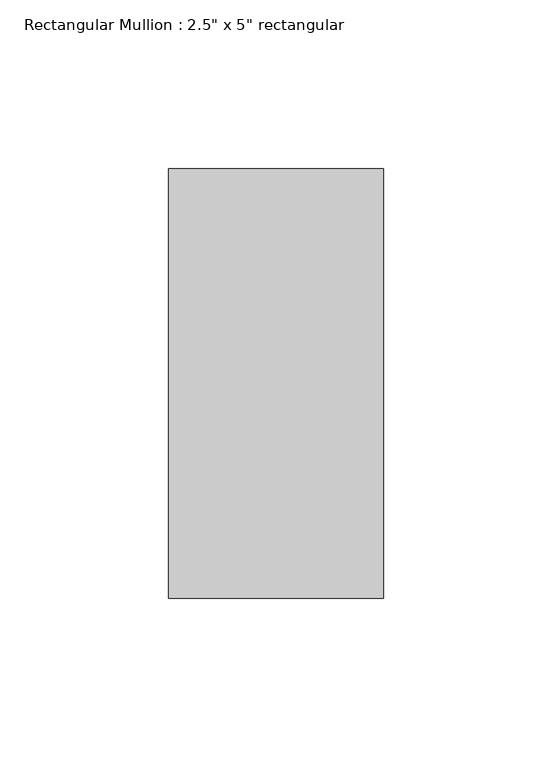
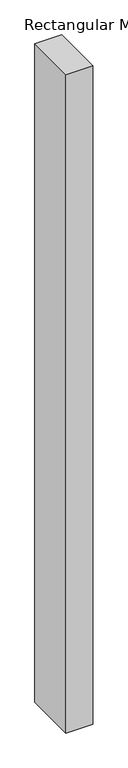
"""IFC4 building model written with IfcOpenShell, lengths in millimetres: member geometry."""

from ifc_helpers import new_model, si_unit, frame, origin, place, context, project, spatial, polyline, outline, extrude, source, transform, mapped, element, save


def member_e5dd3fc3(model_context):
    return source(origin(), model_context, "Body", "SweptSolid", [
        extrude(outline(polyline([(31.75, 63.5), (31.75, -63.5), (-31.75, -63.5), (-31.75, 63.5), (31.75, 63.5)])), frame((0.0, 0.0, -1647.7368509), z_axis=(0.0, 0.0, 1.0), x_axis=(1.0, 0.0, 0.0)), (0.0, 0.0, 1.0), 1647.7368509),
    ])


if __name__ == "__main__":
    model = new_model("IFC4")
    model_context = context("Model", 3, world=origin())
    ifc_project = project(units=[si_unit("LENGTHUNIT", "METRE", prefix="MILLI")], contexts=[model_context])
    site = spatial("IfcSite", under=ifc_project)
    building = spatial("IfcBuilding", under=site)
    placement = place(None, origin())
    member_shape = member_e5dd3fc3(model_context)
    element("IfcMember", 1, ObjectType="Rectangular Mullion : 2.5\" x 5\" rectangular", at=placement, inside=building, context=model_context, shape_type="MappedRepresentation", body=[
        mapped(member_shape, transform((0.0, 0.0, 0.0), x_axis=(1.0, 0.0, 0.0), y_axis=(0.0, 1.0, 0.0), z_axis=(0.0, 0.0, 1.0))),
    ])
    save(model, "model.ifc")
